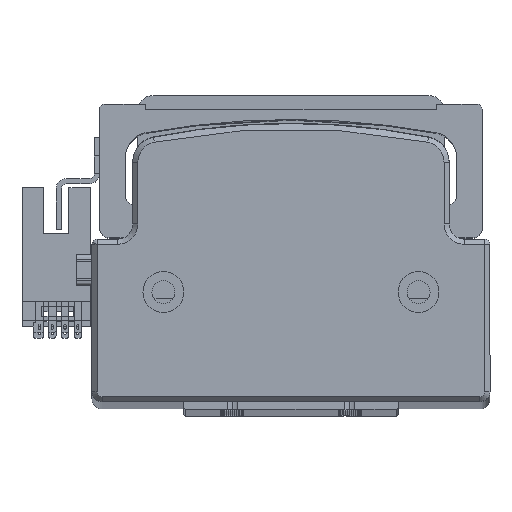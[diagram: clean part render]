
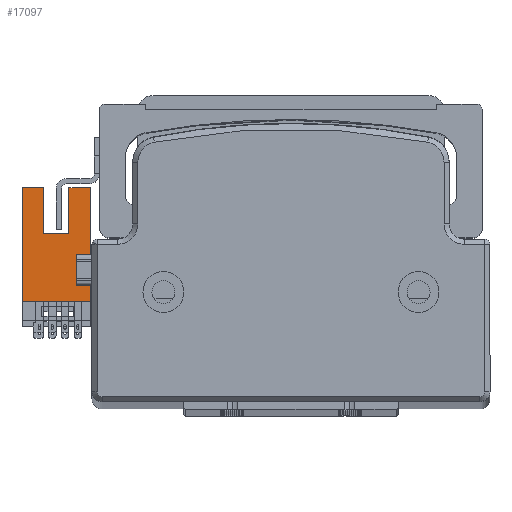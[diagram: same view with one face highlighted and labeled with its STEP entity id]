
A CAD part, top view. The second image highlights one B-rep face of the part: STEP entity #17097.
In plain terms, the highlighted planar face has unit normal (0, 0, 1) as drawn and (1, 0, 0) by its records, which use the part's own axes.
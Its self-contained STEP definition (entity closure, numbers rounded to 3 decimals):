
#24 = EDGE_LOOP ( 'NONE', ( #16129, #18515, #19421, #21427, #22122, #23956, #24515, #26515, #27285, #29412, #29992, #32278 ) ) ;
#772 = LINE ( 'NONE', #2398, #29869 ) ;
#879 = AXIS2_PLACEMENT_3D ( 'NONE', #1160, #35167, #35316 ) ;
#1091 = CARTESIAN_POINT ( 'NONE',  ( 3.2, 2.35, 13.2 ) ) ;
#1160 = CARTESIAN_POINT ( 'NONE',  ( 3.2, 3.85, 0. ) ) ;
#2398 = CARTESIAN_POINT ( 'NONE',  ( 3.2, 3.85, 0. ) ) ;
#3576 = CARTESIAN_POINT ( 'NONE',  ( 3.2, 2.35, 13.2 ) ) ;
#3768 = FACE_OUTER_BOUND ( 'NONE', #24, .T. ) ;
#4034 = VERTEX_POINT ( 'NONE', #44048 ) ;
#4655 = LINE ( 'NONE', #25131, #43754 ) ;
#4735 = CARTESIAN_POINT ( 'NONE',  ( 3.2, -2.65, 13.2 ) ) ;
#4794 = VERTEX_POINT ( 'NONE', #18384 ) ;
#4952 = DIRECTION ( 'NONE',  ( 0., 1., 0. ) ) ;
#5064 = CARTESIAN_POINT ( 'NONE',  ( 3.2, 6.55, 0. ) ) ;
#5357 = VECTOR ( 'NONE', #14675, 1000. ) ;
#6232 = DIRECTION ( 'NONE',  ( 0., 0., 1. ) ) ;
#6945 = LINE ( 'NONE', #12615, #25967 ) ;
#7902 = CARTESIAN_POINT ( 'NONE',  ( 3.2, 3.85, 3. ) ) ;
#8752 = DIRECTION ( 'NONE',  ( 0., 0., 1. ) ) ;
#8961 = CARTESIAN_POINT ( 'NONE',  ( 3.2, 6.55, 9.2 ) ) ;
#10869 = CARTESIAN_POINT ( 'NONE',  ( 3.2, 3.85, 22.2 ) ) ;
#11005 = VERTEX_POINT ( 'NONE', #14118 ) ;
#12615 = CARTESIAN_POINT ( 'NONE',  ( 3.2, -2.65, 13.2 ) ) ;
#12643 = CARTESIAN_POINT ( 'NONE',  ( 3.2, -6.85, 22.2 ) ) ;
#13244 = CARTESIAN_POINT ( 'NONE',  ( 3.2, -2.65, 22.2 ) ) ;
#13492 = VERTEX_POINT ( 'NONE', #23050 ) ;
#13507 = VECTOR ( 'NONE', #4952, 1000. ) ;
#13647 = EDGE_CURVE ( 'NONE', #33002, #32517, #6945, .T. ) ;
#14009 = VERTEX_POINT ( 'NONE', #7902 ) ;
#14118 = CARTESIAN_POINT ( 'NONE',  ( 3.2, 6.55, 22.2 ) ) ;
#14675 = DIRECTION ( 'NONE',  ( 0., -1., 0. ) ) ;
#16129 = ORIENTED_EDGE ( 'NONE', *, *, #13647, .T. ) ;
#16356 = CARTESIAN_POINT ( 'NONE',  ( 3.2, 6.55, 3. ) ) ;
#17097 = ADVANCED_FACE ( 'NONE', ( #3768 ), #31562, .T. ) ;
#17828 = VECTOR ( 'NONE', #34800, 1000. ) ;
#18384 = CARTESIAN_POINT ( 'NONE',  ( 3.2, 2.35, 13.2 ) ) ;
#18515 = ORIENTED_EDGE ( 'NONE', *, *, #34822, .T. ) ;
#19421 = ORIENTED_EDGE ( 'NONE', *, *, #28833, .F. ) ;
#20524 = VECTOR ( 'NONE', #42989, 1000. ) ;
#21427 = ORIENTED_EDGE ( 'NONE', *, *, #48910, .F. ) ;
#22122 = ORIENTED_EDGE ( 'NONE', *, *, #25973, .T. ) ;
#22193 = DIRECTION ( 'NONE',  ( 0., 0., 1. ) ) ;
#22528 = DIRECTION ( 'NONE',  ( 0., 0., 1. ) ) ;
#22724 = VECTOR ( 'NONE', #45937, 1000. ) ;
#23050 = CARTESIAN_POINT ( 'NONE',  ( 3.2, 3.85, 9.2 ) ) ;
#23956 = ORIENTED_EDGE ( 'NONE', *, *, #40568, .F. ) ;
#24515 = ORIENTED_EDGE ( 'NONE', *, *, #34545, .T. ) ;
#24766 = VERTEX_POINT ( 'NONE', #12643 ) ;
#24826 = LINE ( 'NONE', #30644, #43710 ) ;
#25131 = CARTESIAN_POINT ( 'NONE',  ( 3.2, 6.55, 0. ) ) ;
#25967 = VECTOR ( 'NONE', #8752, 1000. ) ;
#25973 = EDGE_CURVE ( 'NONE', #4034, #43529, #30588, .T. ) ;
#26515 = ORIENTED_EDGE ( 'NONE', *, *, #33605, .T. ) ;
#26646 = VERTEX_POINT ( 'NONE', #29565 ) ;
#26764 = VECTOR ( 'NONE', #22193, 1000. ) ;
#27285 = ORIENTED_EDGE ( 'NONE', *, *, #48222, .T. ) ;
#28807 = CARTESIAN_POINT ( 'NONE',  ( 3.2, 3.85, 3. ) ) ;
#28833 = EDGE_CURVE ( 'NONE', #26646, #24766, #47999, .T. ) ;
#29412 = ORIENTED_EDGE ( 'NONE', *, *, #38958, .T. ) ;
#29565 = CARTESIAN_POINT ( 'NONE',  ( 3.2, -6.85, 0. ) ) ;
#29852 = LINE ( 'NONE', #3576, #38712 ) ;
#29869 = VECTOR ( 'NONE', #6232, 1000. ) ;
#29992 = ORIENTED_EDGE ( 'NONE', *, *, #46293, .F. ) ;
#30588 = LINE ( 'NONE', #5064, #20524 ) ;
#30644 = CARTESIAN_POINT ( 'NONE',  ( 3.2, 3.85, 0. ) ) ;
#31059 = CARTESIAN_POINT ( 'NONE',  ( 3.2, -6.85, 9.2 ) ) ;
#31164 = LINE ( 'NONE', #28807, #39985 ) ;
#31562 = PLANE ( 'NONE',  #879 ) ;
#31611 = LINE ( 'NONE', #42134, #22724 ) ;
#32278 = ORIENTED_EDGE ( 'NONE', *, *, #37700, .F. ) ;
#32517 = VERTEX_POINT ( 'NONE', #13244 ) ;
#32632 = DIRECTION ( 'NONE',  ( 0., 1., 0. ) ) ;
#33002 = VERTEX_POINT ( 'NONE', #4735 ) ;
#33600 = LINE ( 'NONE', #1091, #13507 ) ;
#33605 = EDGE_CURVE ( 'NONE', #13492, #48605, #47937, .T. ) ;
#34420 = DIRECTION ( 'NONE',  ( 0., -1., 0. ) ) ;
#34545 = EDGE_CURVE ( 'NONE', #14009, #13492, #772, .T. ) ;
#34800 = DIRECTION ( 'NONE',  ( 0., 1., 0. ) ) ;
#34822 = EDGE_CURVE ( 'NONE', #32517, #24766, #31611, .T. ) ;
#35167 = DIRECTION ( 'NONE',  ( 1., 0., 0. ) ) ;
#35316 = DIRECTION ( 'NONE',  ( 0., 0., -1. ) ) ;
#37182 = CARTESIAN_POINT ( 'NONE',  ( 3.2, -6.85, 0. ) ) ;
#37700 = EDGE_CURVE ( 'NONE', #33002, #4794, #33600, .T. ) ;
#38712 = VECTOR ( 'NONE', #22528, 1000. ) ;
#38958 = EDGE_CURVE ( 'NONE', #11005, #43861, #45637, .T. ) ;
#39985 = VECTOR ( 'NONE', #32632, 1000. ) ;
#40568 = EDGE_CURVE ( 'NONE', #14009, #43529, #31164, .T. ) ;
#41241 = CARTESIAN_POINT ( 'NONE',  ( 3.2, 2.35, 22.2 ) ) ;
#42134 = CARTESIAN_POINT ( 'NONE',  ( 3.2, 3.85, 22.2 ) ) ;
#42989 = DIRECTION ( 'NONE',  ( 0., 0., 1. ) ) ;
#43529 = VERTEX_POINT ( 'NONE', #16356 ) ;
#43710 = VECTOR ( 'NONE', #34420, 1000. ) ;
#43754 = VECTOR ( 'NONE', #47681, 1000. ) ;
#43861 = VERTEX_POINT ( 'NONE', #41241 ) ;
#44048 = CARTESIAN_POINT ( 'NONE',  ( 3.2, 6.55, 0. ) ) ;
#45637 = LINE ( 'NONE', #10869, #5357 ) ;
#45937 = DIRECTION ( 'NONE',  ( 0., -1., 0. ) ) ;
#46293 = EDGE_CURVE ( 'NONE', #4794, #43861, #29852, .T. ) ;
#47681 = DIRECTION ( 'NONE',  ( 0., 0., 1. ) ) ;
#47937 = LINE ( 'NONE', #31059, #17828 ) ;
#47999 = LINE ( 'NONE', #37182, #26764 ) ;
#48222 = EDGE_CURVE ( 'NONE', #48605, #11005, #4655, .T. ) ;
#48605 = VERTEX_POINT ( 'NONE', #8961 ) ;
#48910 = EDGE_CURVE ( 'NONE', #4034, #26646, #24826, .T. ) ;
